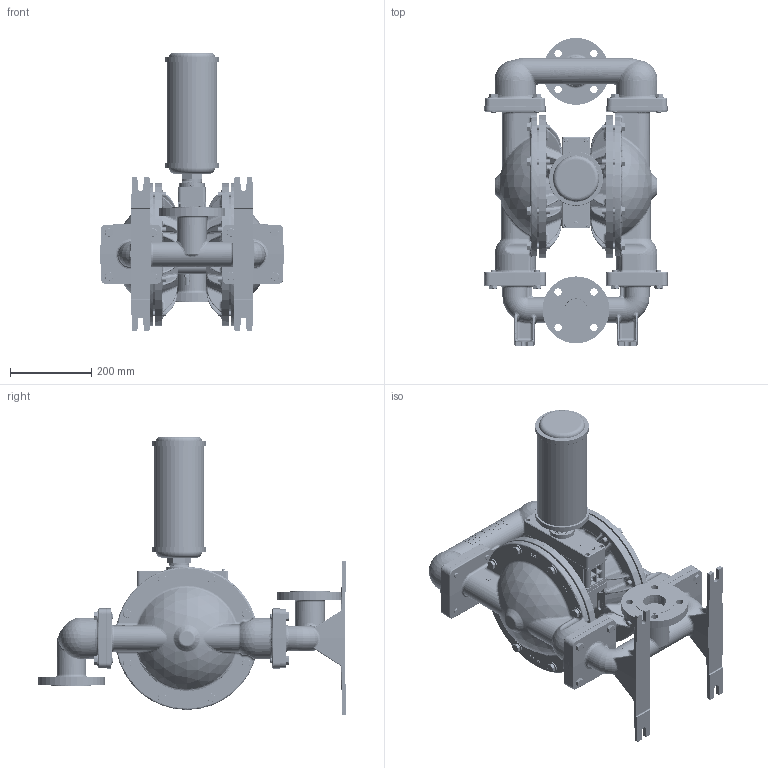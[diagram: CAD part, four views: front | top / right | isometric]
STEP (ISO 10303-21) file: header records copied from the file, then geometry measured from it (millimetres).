
FILE_DESCRIPTION (( 'STEP AP203' ), '1' );
FILE_NAME ('PS830_ADV_SS_DIN.STEP', '2022-06-17T13:44:08', ( '' ), ( '' ), 'SwSTEP 2.0', 'SolidWorks 2019', '' );
FILE_SCHEMA (( 'CONFIG_CONTROL_DESIGN' ));
Length unit declared in the file: inch
Products named in the file (1): PS830_ADV_SS_DIN
Bounding box: 452.41 x 760.35 x 687.2 mm (x, y, z)
Volume: 30404296.6 mm3; surface area: 1857120.3 mm2
Topology: 1 solids, 1 shells, 8518 faces, 21850 edges, 13688 vertices
Faces by surface type: plane 4772, bspline 1274, cylinder 1202, cone 538, torus 468, sphere 264
Entity records: 608753 total; most frequent: CARTESIAN_POINT 411414, ORIENTED_EDGE 43632, DIRECTION 37281, EDGE_CURVE 21816, VERTEX_POINT 13676, LINE 13197, VECTOR 13197, AXIS2_PLACEMENT_3D 12042
